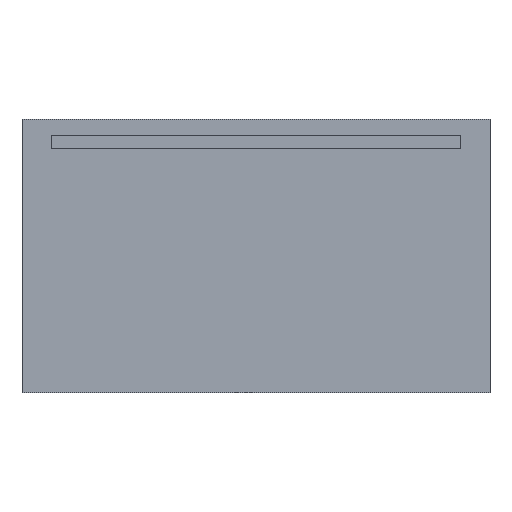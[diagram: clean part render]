
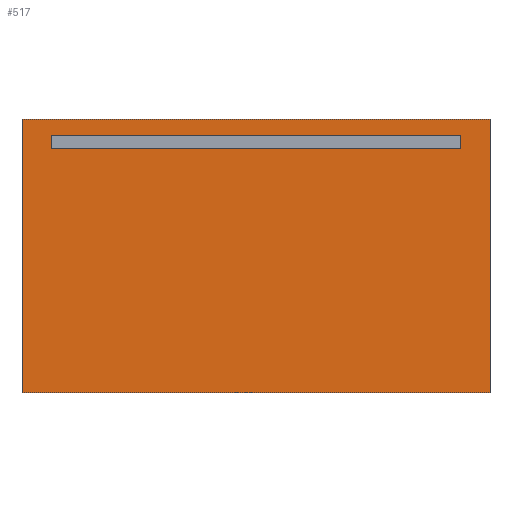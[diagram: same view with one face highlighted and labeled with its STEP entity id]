
A CAD part, front view. The second image highlights one B-rep face of the part: STEP entity #517.
In plain terms, the highlighted planar face has unit normal (0, -1, 0).
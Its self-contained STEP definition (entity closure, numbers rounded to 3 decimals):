
#47=FACE_BOUND('',#92,.T.);
#62=FACE_OUTER_BOUND('',#91,.T.);
#91=EDGE_LOOP('',(#359,#360,#361,#362));
#92=EDGE_LOOP('',(#363,#364,#365,#366));
#115=LINE('',#766,#159);
#119=LINE('',#774,#163);
#122=LINE('',#780,#166);
#125=LINE('',#785,#169);
#127=LINE('',#791,#171);
#131=LINE('',#799,#175);
#134=LINE('',#805,#178);
#137=LINE('',#810,#181);
#159=VECTOR('',#614,10.);
#163=VECTOR('',#620,10.);
#166=VECTOR('',#625,10.);
#169=VECTOR('',#630,10.);
#171=VECTOR('',#636,10.);
#175=VECTOR('',#642,10.);
#178=VECTOR('',#647,10.);
#181=VECTOR('',#652,10.);
#203=VERTEX_POINT('',#764);
#204=VERTEX_POINT('',#765);
#207=VERTEX_POINT('',#773);
#209=VERTEX_POINT('',#779);
#211=VERTEX_POINT('',#789);
#212=VERTEX_POINT('',#790);
#215=VERTEX_POINT('',#798);
#217=VERTEX_POINT('',#804);
#251=EDGE_CURVE('',#203,#204,#115,.T.);
#255=EDGE_CURVE('',#207,#203,#119,.T.);
#258=EDGE_CURVE('',#209,#207,#122,.T.);
#261=EDGE_CURVE('',#204,#209,#125,.T.);
#263=EDGE_CURVE('',#211,#212,#127,.T.);
#267=EDGE_CURVE('',#215,#211,#131,.T.);
#270=EDGE_CURVE('',#217,#215,#134,.T.);
#273=EDGE_CURVE('',#212,#217,#137,.T.);
#359=ORIENTED_EDGE('',*,*,#273,.F.);
#360=ORIENTED_EDGE('',*,*,#263,.F.);
#361=ORIENTED_EDGE('',*,*,#267,.F.);
#362=ORIENTED_EDGE('',*,*,#270,.F.);
#363=ORIENTED_EDGE('',*,*,#251,.T.);
#364=ORIENTED_EDGE('',*,*,#261,.T.);
#365=ORIENTED_EDGE('',*,*,#258,.T.);
#366=ORIENTED_EDGE('',*,*,#255,.T.);
#465=PLANE('',#567);
#517=ADVANCED_FACE('',(#62,#47),#465,.F.);
#567=AXIS2_PLACEMENT_3D('',#813,#656,#657);
#614=DIRECTION('',(0.,0.,-1.));
#620=DIRECTION('',(1.,0.,0.));
#625=DIRECTION('',(0.,0.,1.));
#630=DIRECTION('',(-1.,0.,0.));
#636=DIRECTION('',(0.,0.,1.));
#642=DIRECTION('',(-1.,0.,0.));
#647=DIRECTION('',(0.,0.,-1.));
#652=DIRECTION('',(1.,0.,0.));
#656=DIRECTION('center_axis',(0.,1.,0.));
#657=DIRECTION('ref_axis',(0.,0.,1.));
#764=CARTESIAN_POINT('',(525.,-26.,660.));
#765=CARTESIAN_POINT('',(525.,-26.,625.));
#766=CARTESIAN_POINT('',(525.,-26.,505.));
#773=CARTESIAN_POINT('',(-525.,-26.,660.));
#774=CARTESIAN_POINT('',(-262.5,-26.,660.));
#779=CARTESIAN_POINT('',(-525.,-26.,625.));
#780=CARTESIAN_POINT('',(-525.,-26.,487.5));
#785=CARTESIAN_POINT('',(262.5,-26.,625.));
#789=CARTESIAN_POINT('',(-600.,-26.,0.));
#790=CARTESIAN_POINT('',(-600.,-26.,700.));
#791=CARTESIAN_POINT('',(-600.,-26.,0.));
#798=CARTESIAN_POINT('',(600.,-26.,0.));
#799=CARTESIAN_POINT('',(600.,-26.,0.));
#804=CARTESIAN_POINT('',(600.,-26.,700.));
#805=CARTESIAN_POINT('',(600.,-26.,700.));
#810=CARTESIAN_POINT('',(-600.,-26.,700.));
#813=CARTESIAN_POINT('Origin',(0.,-26.,350.));
